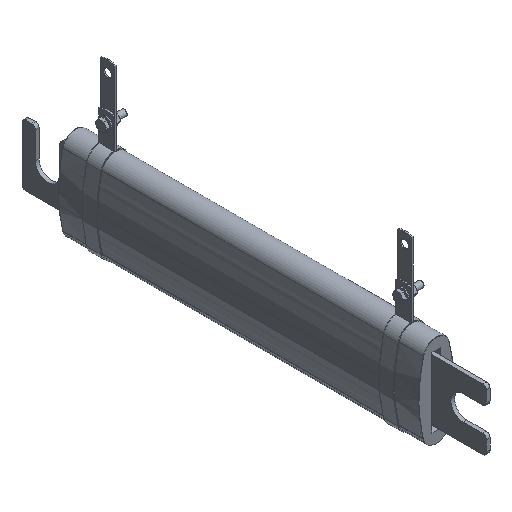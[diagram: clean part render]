
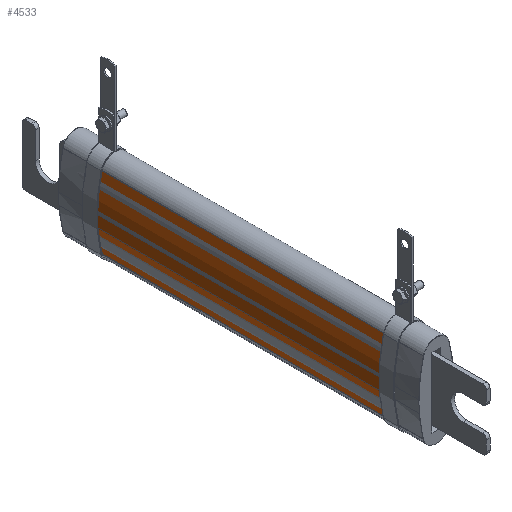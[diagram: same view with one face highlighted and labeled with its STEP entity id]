
A CAD part, isometric view. The second image highlights one B-rep face of the part: STEP entity #4533.
In plain terms, the highlighted cylindrical face has radius 120.068 mm (diameter 240.136 mm), a partial arc.
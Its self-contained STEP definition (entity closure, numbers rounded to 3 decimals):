
#177=FACE_OUTER_BOUND($,#915,.T.);
#545=CIRCLE($,#4878,120.068);
#546=CIRCLE($,#4879,120.068);
#915=EDGE_LOOP($,(#3319,#3320,#3321,#3322));
#1344=LINE($,#7119,#1662);
#1347=LINE($,#7137,#1665);
#1662=VECTOR($,#5750,231.);
#1665=VECTOR($,#5771,231.);
#1971=VERTEX_POINT($,#7115);
#1972=VERTEX_POINT($,#7117);
#1977=VERTEX_POINT($,#7133);
#1978=VERTEX_POINT($,#7135);
#2470=EDGE_CURVE($,#1972,#1971,#1344,.T.);
#2477=EDGE_CURVE($,#1971,#1977,#545,.T.);
#2478=EDGE_CURVE($,#1978,#1972,#546,.T.);
#2479=EDGE_CURVE($,#1978,#1977,#1347,.T.);
#3319=ORIENTED_EDGE($,*,*,#2477,.F.);
#3320=ORIENTED_EDGE($,*,*,#2470,.F.);
#3321=ORIENTED_EDGE($,*,*,#2478,.F.);
#3322=ORIENTED_EDGE($,*,*,#2479,.T.);
#4105=CYLINDRICAL_SURFACE($,#4877,120.068);
#4533=ADVANCED_FACE($,(#177),#4105,.T.);
#4877=AXIS2_PLACEMENT_3D($,#7132,#5765,#5766);
#4878=AXIS2_PLACEMENT_3D($,#7134,#5767,#5768);
#4879=AXIS2_PLACEMENT_3D($,#7136,#5769,#5770);
#5750=DIRECTION($,(0.,1.,0.));
#5765=DIRECTION('center_axis',(0.,1.,0.));
#5766=DIRECTION('ref_axis',(-0.969,0.,-0.246));
#5767=DIRECTION('center_axis',(0.,1.,0.));
#5768=DIRECTION('ref_axis',(-0.969,0.,-0.246));
#5769=DIRECTION('center_axis',(0.,-1.,0.));
#5770=DIRECTION('ref_axis',(-0.969,0.,-0.246));
#5771=DIRECTION($,(0.,1.,0.));
#7115=CARTESIAN_POINT('',(-65.107,115.5,-51.031));
#7117=CARTESIAN_POINT('',(-65.107,-115.5,-51.031));
#7119=CARTESIAN_POINT($,(-65.107,0.,-51.031));
#7132=CARTESIAN_POINT('Origin',(51.268,0.,
-21.481));
#7133=CARTESIAN_POINT('',(-65.107,115.5,8.068));
#7134=CARTESIAN_POINT('Origin',(51.268,115.5,-21.481));
#7135=CARTESIAN_POINT('',(-65.107,-115.5,8.068));
#7136=CARTESIAN_POINT('Origin',(51.268,-115.5,-21.481));
#7137=CARTESIAN_POINT($,(-65.107,0.,8.068));
